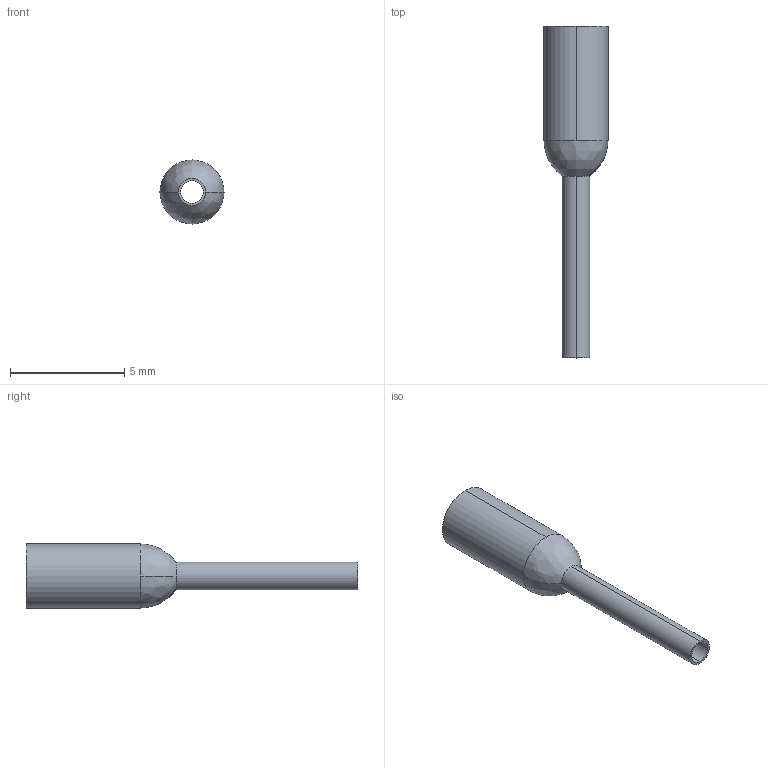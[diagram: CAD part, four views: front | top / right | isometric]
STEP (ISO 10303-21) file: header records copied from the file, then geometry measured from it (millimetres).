
FILE_DESCRIPTION (( 'STEP AP214' ), '1' );
FILE_NAME ('278039 OptiKit T-Shv-PVC-0508.STEP', '2020-02-19T10:09:01', ( '' ), ( '' ), 'SwSTEP 2.0', 'SolidWorks 2018', '' );
FILE_SCHEMA (( 'AUTOMOTIVE_DESIGN' ));
Length unit declared in the file: millimetre
Products named in the file (1): 278039 OptiKit T-Shv-PVC-0508
Bounding box: 2.8 x 14.5 x 2.8 mm (x, y, z)
Volume: 8.2 mm3; surface area: 165.2 mm2
Topology: 1 solids, 1 shells, 14 faces, 36 edges, 24 vertices
Faces by surface type: cylinder 8, bspline 4, plane 2
Entity records: 694 total; most frequent: CARTESIAN_POINT 157, DIRECTION 78, ORIENTED_EDGE 72, EDGE_CURVE 36, AXIS2_PLACEMENT_3D 35, VERTEX_POINT 24, CIRCLE 24, UNCERTAINTY_MEASURE_WITH_UNIT 17
